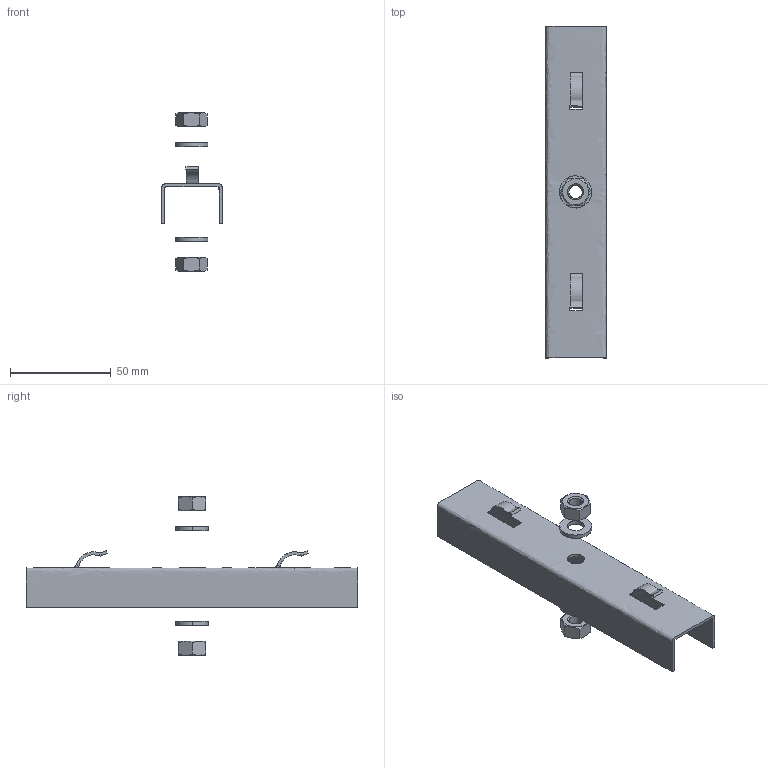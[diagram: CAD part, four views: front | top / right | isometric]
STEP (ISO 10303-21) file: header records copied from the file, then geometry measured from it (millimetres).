
FILE_DESCRIPTION(/* description */ (''),/* implementation_level */ '2;1');
FILE_NAME(/* name */ 'PZM100',/* time_stamp */ '2012-11-29T22:30:31+01:00',/* author */ (''),/* organization */ (''),/* preprocessor_version */ 'ST-DEVELOPER v10',/* originating_system */ '',/* authorisation */ '');
FILE_SCHEMA (('AUTOMOTIVE_DESIGN_CC2'));
Length unit declared in the file: millimetre
Products named in the file (1): 1
Bounding box: 30 x 165 x 78.97 mm (x, y, z)
Surface area: 24993.8 mm2 (no closed solid volume)
Topology: 0 solids, 74 shells, 89 faces, 388 edges, 360 vertices
Faces by surface type: bspline 62, plane 27
Entity records: 6866 total; most frequent: CARTESIAN_POINT 4346, ORIENTED_EDGE 416, EDGE_CURVE 386, VERTEX_POINT 356, B_SPLINE_CURVE_WITH_KNOTS 192, EDGE_LOOP 103, ADVANCED_FACE 89, FACE_OUTER_BOUND 89
